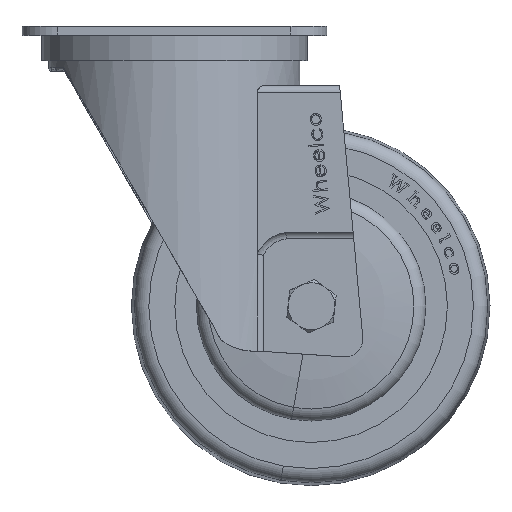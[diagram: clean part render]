
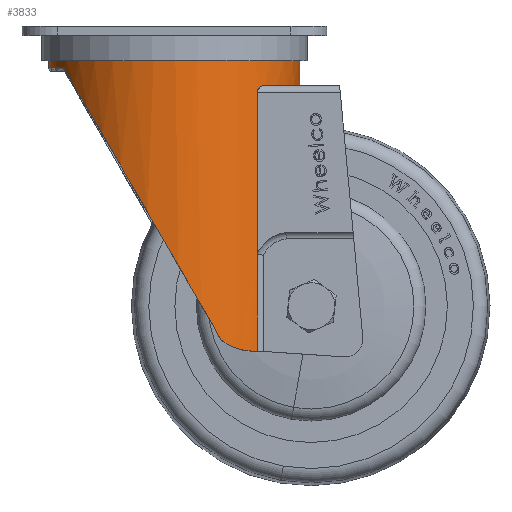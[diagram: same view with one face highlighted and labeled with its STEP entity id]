
A CAD part, top view. The second image highlights one B-rep face of the part: STEP entity #3833.
In plain terms, the highlighted cylindrical face has radius 35 mm (diameter 70 mm), a partial arc.
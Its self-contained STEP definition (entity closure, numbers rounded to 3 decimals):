
#126 = CIRCLE ( 'NONE', #14422, 35. ) ;
#162 = EDGE_CURVE ( 'NONE', #21419, #24611, #14245, .T. ) ;
#517 = CARTESIAN_POINT ( 'NONE',  ( 16.22, 9., -31.015 ) ) ;
#536 = ORIENTED_EDGE ( 'NONE', *, *, #7826, .F. ) ;
#570 = VERTEX_POINT ( 'NONE', #20932 ) ;
#626 = VERTEX_POINT ( 'NONE', #13566 ) ;
#805 = EDGE_CURVE ( 'NONE', #3374, #7800, #15682, .T. ) ;
#949 = CARTESIAN_POINT ( 'NONE',  ( 26.5, 88., 22.864 ) ) ;
#1475 = CARTESIAN_POINT ( 'NONE',  ( 25.603, 14.313, 23.866 ) ) ;
#1698 = AXIS2_PLACEMENT_3D ( 'NONE', #24594, #15482, #6005 ) ;
#1812 = ORIENTED_EDGE ( 'NONE', *, *, #162, .F. ) ;
#2173 = CARTESIAN_POINT ( 'NONE',  ( 26.405, 15.371, 22.973 ) ) ;
#2437 = EDGE_CURVE ( 'NONE', #24611, #3218, #6151, .T. ) ;
#2663 = CARTESIAN_POINT ( 'NONE',  ( 24.5, 14., 24.995 ) ) ;
#2741 = FACE_OUTER_BOUND ( 'NONE', #17218, .T. ) ;
#2855 = DIRECTION ( 'NONE',  ( 0., -1., 0. ) ) ;
#3156 = EDGE_CURVE ( 'NONE', #570, #3821, #3251, .T. ) ;
#3218 = VERTEX_POINT ( 'NONE', #949 ) ;
#3251 = CIRCLE ( 'NONE', #6426, 35. ) ;
#3374 = VERTEX_POINT ( 'NONE', #13738 ) ;
#3676 = CARTESIAN_POINT ( 'NONE',  ( 27.176, 88.05, 22.081 ) ) ;
#3821 = VERTEX_POINT ( 'NONE', #517 ) ;
#3833 = ADVANCED_FACE ( 'NONE', ( #2741 ), #8217, .T. ) ;
#3924 = CARTESIAN_POINT ( 'NONE',  ( 29.57, 87.723, 18.751 ) ) ;
#4171 = CARTESIAN_POINT ( 'NONE',  ( 30.585, 87.222, 17.024 ) ) ;
#4381 = CARTESIAN_POINT ( 'NONE',  ( 32.903, 24.112, -22.29 ) ) ;
#4945 = ORIENTED_EDGE ( 'NONE', *, *, #805, .T. ) ;
#5183 = CARTESIAN_POINT ( 'NONE',  ( 25.983, 14.635, 23.451 ) ) ;
#5696 = VECTOR ( 'NONE', #6203, 1000. ) ;
#6005 = DIRECTION ( 'NONE',  ( 0., 0., -1. ) ) ;
#6131 = CARTESIAN_POINT ( 'NONE',  ( 0., 7., 35. ) ) ;
#6151 = LINE ( 'NONE', #6281, #22643 ) ;
#6203 = DIRECTION ( 'NONE',  ( 0., -1., 0. ) ) ;
#6281 = CARTESIAN_POINT ( 'NONE',  ( 26.5, 60.931, 22.864 ) ) ;
#6390 = CARTESIAN_POINT ( 'NONE',  ( 26.5, 90., 22.864 ) ) ;
#6422 = VERTEX_POINT ( 'NONE', #22999 ) ;
#6426 = AXIS2_PLACEMENT_3D ( 'NONE', #7662, #11528, #15267 ) ;
#7068 = CARTESIAN_POINT ( 'NONE',  ( 26.351, 15.229, 23.035 ) ) ;
#7662 = CARTESIAN_POINT ( 'NONE',  ( 0., 9., 0. ) ) ;
#7800 = VERTEX_POINT ( 'NONE', #6131 ) ;
#7826 = EDGE_CURVE ( 'NONE', #626, #7800, #12429, .T. ) ;
#7867 = DIRECTION ( 'NONE',  ( 0., -1., 0. ) ) ;
#7929 = EDGE_CURVE ( 'NONE', #3821, #6422, #16429, .T. ) ;
#8217 = CYLINDRICAL_SURFACE ( 'NONE', #16077, 35. ) ;
#8441 = CARTESIAN_POINT ( 'NONE',  ( 0., 90., 35. ) ) ;
#9055 = CARTESIAN_POINT ( 'NONE',  ( 25.397, 14.197, 24.085 ) ) ;
#9229 = CARTESIAN_POINT ( 'NONE',  ( 26.5, 16., 22.864 ) ) ;
#9907 = DIRECTION ( 'NONE',  ( -1., 0., 0. ) ) ;
#10128 = CARTESIAN_POINT ( 'NONE',  ( 39.47, 54.673, -4.646 ) ) ;
#10568 = LINE ( 'NONE', #18302, #14047 ) ;
#11268 = ORIENTED_EDGE ( 'NONE', *, *, #2437, .F. ) ;
#11288 = CARTESIAN_POINT ( 'NONE',  ( 31.88, 86.095, 14.474 ) ) ;
#11409 = CARTESIAN_POINT ( 'NONE',  ( 26.5, 88., 22.864 ) ) ;
#11528 = DIRECTION ( 'NONE',  ( 0., -1., 0. ) ) ;
#11632 = CARTESIAN_POINT ( 'NONE',  ( 26.5, 16., 22.864 ) ) ;
#11784 = CARTESIAN_POINT ( 'NONE',  ( 27.819, 88.04, 21.264 ) ) ;
#11873 = EDGE_CURVE ( 'NONE', #3374, #20753, #126, .T. ) ;
#11887 = DIRECTION ( 'NONE',  ( 0., 1., 0. ) ) ;
#11983 = CARTESIAN_POINT ( 'NONE',  ( 32.55, 85., 12.864 ) ) ;
#12223 = ORIENTED_EDGE ( 'NONE', *, *, #13090, .F. ) ;
#12429 = CIRCLE ( 'NONE', #1698, 35. ) ;
#13090 = EDGE_CURVE ( 'NONE', #570, #626, #10568, .T. ) ;
#13509 = ORIENTED_EDGE ( 'NONE', *, *, #7929, .T. ) ;
#13566 = CARTESIAN_POINT ( 'NONE',  ( 0., 7., -35. ) ) ;
#13738 = CARTESIAN_POINT ( 'NONE',  ( 0., 14., 35. ) ) ;
#13987 = DIRECTION ( 'NONE',  ( 0., 1., 0. ) ) ;
#14047 = VECTOR ( 'NONE', #7867, 1000. ) ;
#14245 = LINE ( 'NONE', #6390, #17616 ) ;
#14422 = AXIS2_PLACEMENT_3D ( 'NONE', #22660, #20788, #9907 ) ;
#14669 = CARTESIAN_POINT ( 'NONE',  ( 26.155, 14.84, 23.258 ) ) ;
#15267 = DIRECTION ( 'NONE',  ( 0., 0., 1. ) ) ;
#15273 = CARTESIAN_POINT ( 'NONE',  ( 32.55, 85., 12.864 ) ) ;
#15482 = DIRECTION ( 'NONE',  ( 0., -1., 0. ) ) ;
#15515 = CARTESIAN_POINT ( 'NONE',  ( 30.338, 87.364, 17.46 ) ) ;
#15682 = LINE ( 'NONE', #8441, #5696 ) ;
#15840 = ORIENTED_EDGE ( 'NONE', *, *, #20711, .T. ) ;
#16077 = AXIS2_PLACEMENT_3D ( 'NONE', #19933, #2855, #23551 ) ;
#16083 = ORIENTED_EDGE ( 'NONE', *, *, #17983, .T. ) ;
#16429 =( BOUNDED_CURVE ( )  B_SPLINE_CURVE ( 3, ( #21600, #4381, #10128, #11983 ),
 .UNSPECIFIED., .F., .F. ) 
 B_SPLINE_CURVE_WITH_KNOTS ( ( 4, 4 ),
 ( 0.482, 1.947 ),
 .UNSPECIFIED. ) 
 CURVE ( )  GEOMETRIC_REPRESENTATION_ITEM ( )  RATIONAL_B_SPLINE_CURVE ( ( 1., 0.829, 0.829, 1. ) ) 
 REPRESENTATION_ITEM ( '' )  );
#16554 = ORIENTED_EDGE ( 'NONE', *, *, #11873, .F. ) ;
#16572 = ORIENTED_EDGE ( 'NONE', *, *, #3156, .T. ) ;
#17218 = EDGE_LOOP ( 'NONE', ( #16554, #4945, #536, #12223, #16572, #13509, #15840, #11268, #1812, #16083 ) ) ;
#17276 = CARTESIAN_POINT ( 'NONE',  ( 32.238, 85.597, 13.654 ) ) ;
#17616 = VECTOR ( 'NONE', #13987, 1000. ) ;
#17868 = CARTESIAN_POINT ( 'NONE',  ( 24.958, 14.039, 24.539 ) ) ;
#17983 = EDGE_CURVE ( 'NONE', #21419, #20753, #23806, .T. ) ;
#18302 = CARTESIAN_POINT ( 'NONE',  ( 0., 90., -35. ) ) ;
#18891 = CARTESIAN_POINT ( 'NONE',  ( 31.048, 86.896, 16.163 ) ) ;
#19135 = CARTESIAN_POINT ( 'NONE',  ( 24.5, 14., 24.995 ) ) ;
#19187 = B_SPLINE_CURVE_WITH_KNOTS ( 'NONE', 3,
 ( #15273, #17276, #11288, #21267, #18891, #4171, #15515, #3924, #23125, #11784, #3676, #11409 ),
 .UNSPECIFIED., .F., .F.,
 ( 4, 2, 2, 2, 2, 4 ),
 ( 0., 0.003, 0.005, 0.006, 0.009, 0.012 ),
 .UNSPECIFIED. ) ;
#19233 = CARTESIAN_POINT ( 'NONE',  ( 26.5, 15.836, 22.864 ) ) ;
#19933 = CARTESIAN_POINT ( 'NONE',  ( 0., 90., 0. ) ) ;
#20711 = EDGE_CURVE ( 'NONE', #6422, #3218, #19187, .T. ) ;
#20726 = CARTESIAN_POINT ( 'NONE',  ( 26.5, 60.931, 22.864 ) ) ;
#20753 = VERTEX_POINT ( 'NONE', #19135 ) ;
#20788 = DIRECTION ( 'NONE',  ( 0., 1., 0. ) ) ;
#20932 = CARTESIAN_POINT ( 'NONE',  ( 0., 9., -35. ) ) ;
#21267 = CARTESIAN_POINT ( 'NONE',  ( 31.266, 86.712, 15.737 ) ) ;
#21419 = VERTEX_POINT ( 'NONE', #9229 ) ;
#21600 = CARTESIAN_POINT ( 'NONE',  ( 16.22, 9., -31.015 ) ) ;
#22643 = VECTOR ( 'NONE', #11887, 1000. ) ;
#22660 = CARTESIAN_POINT ( 'NONE',  ( 0., 14., 0. ) ) ;
#22999 = CARTESIAN_POINT ( 'NONE',  ( 32.55, 85., 12.864 ) ) ;
#23125 = CARTESIAN_POINT ( 'NONE',  ( 29.016, 87.876, 19.599 ) ) ;
#23471 = CARTESIAN_POINT ( 'NONE',  ( 24.733, 14., 24.767 ) ) ;
#23551 = DIRECTION ( 'NONE',  ( 0., 0., -1. ) ) ;
#23806 = B_SPLINE_CURVE_WITH_KNOTS ( 'NONE', 3,
 ( #11632, #19233, #24152, #2173, #7068, #14669, #5183, #1475, #9055, #17868, #23471, #2663 ),
 .UNSPECIFIED., .F., .F.,
 ( 4, 2, 2, 2, 2, 4 ),
 ( 0., 0., 0.001, 0.002, 0.003, 0.004 ),
 .UNSPECIFIED. ) ;
#24152 = CARTESIAN_POINT ( 'NONE',  ( 26.48, 15.677, 22.887 ) ) ;
#24594 = CARTESIAN_POINT ( 'NONE',  ( 0., 7., 0. ) ) ;
#24611 = VERTEX_POINT ( 'NONE', #20726 ) ;
